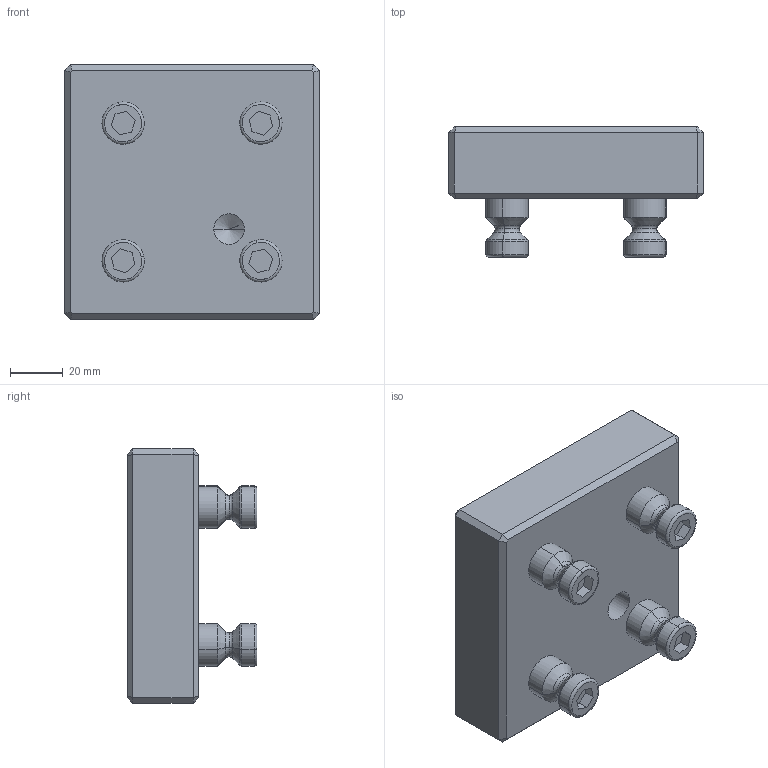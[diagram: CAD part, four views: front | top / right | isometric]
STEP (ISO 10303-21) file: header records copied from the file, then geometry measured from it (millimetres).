
FILE_DESCRIPTION (( 'STEP AP203' ), '1' );
FILE_NAME ('45275.STEP', '2012-10-24T14:02:06', ( '' ), ( '' ), 'SwSTEP 2.0', 'SolidWorks 2011', '' );
FILE_SCHEMA (( 'CONFIG_CONTROL_DESIGN' ));
Length unit declared in the file: millimetre
Products named in the file (1): 45275
Bounding box: 96 x 49 x 96 mm (x, y, z)
Volume: 257654.4 mm3; surface area: 37085.9 mm2
Topology: 5 solids, 5 shells, 178 faces, 378 edges, 217 vertices
Faces by surface type: plane 70, cylinder 42, cone 34, torus 32
Entity records: 4725 total; most frequent: DIRECTION 890, CARTESIAN_POINT 764, ORIENTED_EDGE 736, EDGE_CURVE 368, AXIS2_PLACEMENT_3D 343, VERTEX_POINT 217, VECTOR 204, LINE 204
